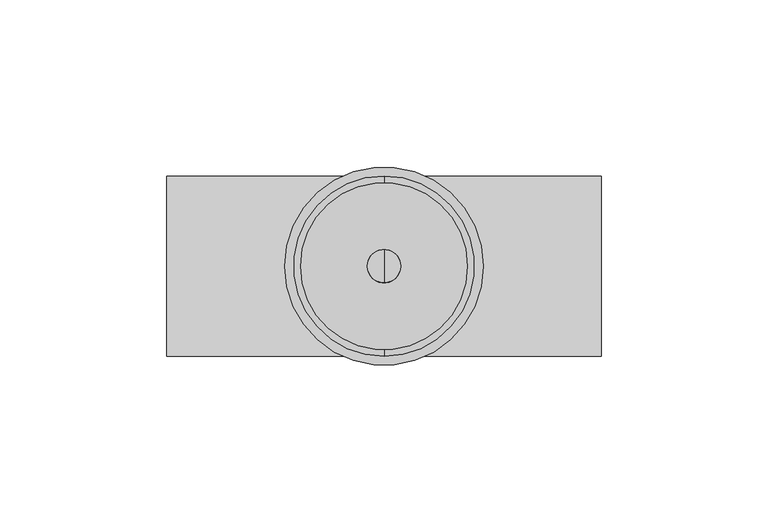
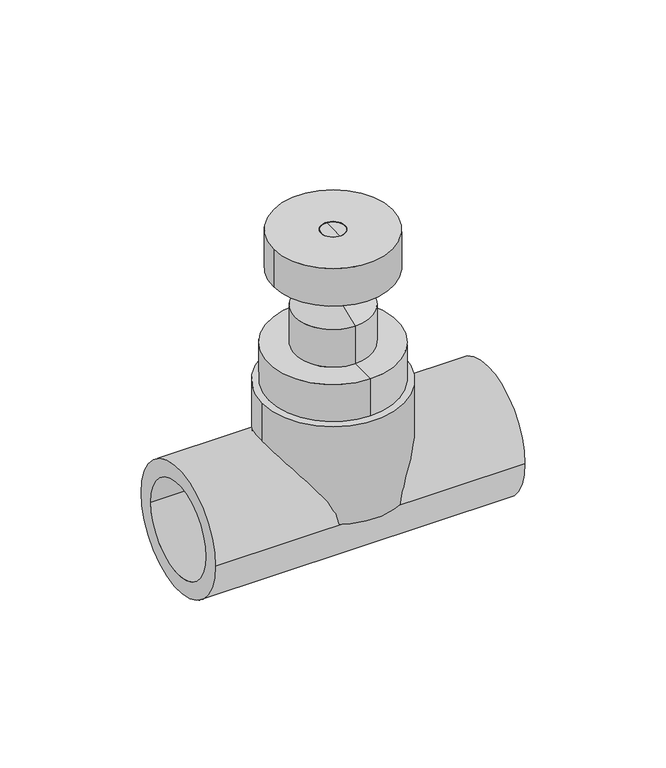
"""IFC4 building model written with IfcOpenShell, lengths in millimetres: valve geometry, EGB_VASEN_ PPR_Valvula de corte con volante WXR830 : Válvula de corte con volante WXR830."""

from ifc_helpers import new_model, si_unit, point, frame, origin, origin_with_axes, origin_2d, place, context, project, spatial, polyline, circle_curve, trimmed, segment, composite_curve, outline, extrude, source, transform, mapped, element, save
from ifc_brep_helpers import plane_surface, cylinder_surface, revolved_surface, advanced_brep


def valve_8d334621(model_context):
    return source(origin(), model_context, "Body", "SolidModel", [
        extrude(outline(composite_curve([segment(trimmed(circle_curve(origin_2d(), 29.7), [point((-29.7, 0.0))], [point((29.7, 0.0))], False, "CARTESIAN"), True, "CONTINUOUS"), segment(trimmed(circle_curve(origin_2d(), 29.7), [point((29.7, 0.0))], [point((-29.7, 0.0))], False, "CARTESIAN"), True, "CONTINUOUS")], self_intersect=False)), origin_with_axes(), (0.0, 0.0, 1.0), 43.7),
        extrude(outline(composite_curve([segment(trimmed(circle_curve(origin_2d(), 27.0), [point((-27.0, 0.0))], [point((27.0, 0.0))], False, "CARTESIAN"), True, "CONTINUOUS"), segment(trimmed(circle_curve(origin_2d(), 27.0), [point((27.0, 0.0))], [point((-27.0, 0.0))], False, "CARTESIAN"), True, "CONTINUOUS")], self_intersect=False), holes=[composite_curve([segment(trimmed(circle_curve(origin_2d(), 20.0), [point((-20.0, 0.0))], [point((20.0, 0.0))], True, "CARTESIAN"), True, "CONTINUOUS"), segment(trimmed(circle_curve(origin_2d(), 20.0), [point((20.0, 0.0))], [point((-20.0, 0.0))], True, "CARTESIAN"), True, "CONTINUOUS")], self_intersect=False)]), frame((-65.0, 0.0, 0.0), z_axis=(1.0, 0.0, 0.0), x_axis=(0.0, 1.0, 0.0)), (0.0, 0.0, 1.0), 130.0),
        extrude(outline(composite_curve([segment(trimmed(circle_curve(origin_2d(), 25.0), [point((25.0, 0.0))], [point((-25.0, 0.0))], False, "CARTESIAN"), True, "CONTINUOUS"), segment(trimmed(circle_curve(origin_2d(), 25.0), [point((-25.0, 0.0))], [point((25.0, 0.0))], False, "CARTESIAN"), True, "CONTINUOUS")], self_intersect=False), holes=[composite_curve([segment(trimmed(circle_curve(origin_2d(), 5.0), [point((5.0, 0.0))], [point((-5.0, 0.0))], True, "CARTESIAN"), True, "CONTINUOUS"), segment(trimmed(circle_curve(origin_2d(), 5.0), [point((-5.0, 0.0))], [point((5.0, 0.0))], True, "CARTESIAN"), True, "CONTINUOUS")], self_intersect=False)]), frame((0.0, 0.0, 93.8), z_axis=(0.0, 0.0, 1.0), x_axis=(1.0, 0.0, 0.0)), (0.0, 0.0, 1.0), 16.7),
        advanced_brep(
        [(0.0, -16.0, 60.4), (0.0, 16.0, 60.4), (0.0, 27.0, 60.4), (0.0, -27.0, 60.4), (0.0, -16.0, 77.1), (0.0, 16.0, 77.1), (0.0, -5.0, 81.8272839), (0.0, 5.0, 81.8272839), (0.0, -5.0, 110.5), (0.0, 5.0, 110.5), (0.0, 0.0, 110.5), (0.0, -27.0, 43.7), (0.0, 27.0, 43.7), (0.0, 0.0, 43.7)],
        [
            (0, 1, circle_curve(frame((0.0, 0.0, 60.4), z_axis=(0.0, 0.0, -1.0), x_axis=(0.0, 1.0, 0.0)), 16.0)),
            (1, 2),
            (2, 3, circle_curve(frame((0.0, 0.0, 60.4), z_axis=(0.0, 0.0, 1.0), x_axis=(0.0, 1.0, 0.0)), 27.0)),
            (3, 0),
            (1, 0, circle_curve(frame((0.0, 0.0, 60.4), z_axis=(0.0, 0.0, -1.0), x_axis=(0.0, 1.0, 0.0)), 16.0)),
            (3, 2, circle_curve(frame((0.0, 0.0, 60.4), z_axis=(0.0, 0.0, 1.0), x_axis=(0.0, 1.0, 0.0)), 27.0)),
            (4, 5, circle_curve(frame((0.0, 0.0, 77.1), z_axis=(0.0, 0.0, -1.0), x_axis=(0.0, 1.0, 0.0)), 16.0)),
            (5, 1),
            (0, 4),
            (5, 4, circle_curve(frame((0.0, 0.0, 77.1), z_axis=(0.0, 0.0, -1.0), x_axis=(0.0, 1.0, 0.0)), 16.0)),
            (6, 7, circle_curve(frame((0.0, 0.0, 81.8272839), z_axis=(0.0, 0.0, -1.0), x_axis=(0.0, 1.0, 0.0)), 5.0)),
            (7, 5),
            (4, 6),
            (7, 6, circle_curve(frame((0.0, 0.0, 81.8272839), z_axis=(0.0, 0.0, -1.0), x_axis=(0.0, 1.0, 0.0)), 5.0)),
            (8, 9, circle_curve(frame((0.0, 0.0, 110.5), z_axis=(0.0, 0.0, -1.0), x_axis=(0.0, 1.0, 0.0)), 5.0)),
            (9, 7),
            (6, 8),
            (9, 8, circle_curve(frame((0.0, 0.0, 110.5), z_axis=(0.0, 0.0, -1.0), x_axis=(0.0, 1.0, 0.0)), 5.0)),
            (10, 9),
            (8, 10),
            (11, 12, circle_curve(frame((0.0, 0.0, 43.7), z_axis=(0.0, 0.0, -1.0), x_axis=(0.0, 1.0, 0.0)), 27.0)),
            (12, 13),
            (13, 11),
            (12, 11, circle_curve(frame((0.0, 0.0, 43.7), z_axis=(0.0, 0.0, -1.0), x_axis=(0.0, 1.0, 0.0)), 27.0)),
            (2, 12),
            (11, 3),
        ],
        [
            plane_surface(frame((0.0, 0.0, 60.4), z_axis=(0.0, 0.0, 1.0), x_axis=(0.0, 1.0, 0.0))),
            cylinder_surface(frame((0.0, 0.0, 125.5), z_axis=(0.0, 0.0, 1.0), x_axis=(0.0, 1.0, 0.0)), 16.0),
            revolved_surface(polyline([(0.0, 16.0, 77.1), (0.0, 5.0, 81.8272839)]), (0.0, 0.0, 125.5), (0.0, 0.0, 1.0)),
            cylinder_surface(frame((0.0, 0.0, 125.5), z_axis=(0.0, 0.0, 1.0), x_axis=(0.0, 1.0, 0.0)), 5.0),
            plane_surface(frame((0.0, 0.0, 110.5), z_axis=(0.0, 0.0, 1.0), x_axis=(0.0, 1.0, 0.0))),
            plane_surface(frame((0.0, 0.0, 43.7), z_axis=(0.0, 0.0, -1.0), x_axis=(0.0, 1.0, 0.0))),
            cylinder_surface(frame((0.0, 0.0, 125.5), z_axis=(0.0, 0.0, 1.0), x_axis=(0.0, 1.0, 0.0)), 27.0),
        ],
        [
            (0, [[1, 2, 3, 4]]),
            (0, [[5, -4, 6, -2]]),
            (1, [[7, 8, -1, 9]]),
            (1, [[10, -9, -5, -8]]),
            (2, [[11, 12, -7, 13]]),
            (2, [[14, -13, -10, -12]]),
            (3, [[15, 16, -11, 17]]),
            (3, [[18, -17, -14, -16]]),
            (4, [[19, -15, 20]]),
            (4, [[-20, -18, -19]]),
            (5, [[21, 22, 23]]),
            (5, [[24, -23, -22]]),
            (6, [[-3, 25, -21, 26]]),
            (6, [[-6, -26, -24, -25]]),
        ],
    ),
    ])


if __name__ == "__main__":
    model = new_model("IFC4")
    model_context = context("Model", 3, world=origin())
    ifc_project = project(units=[si_unit("LENGTHUNIT", "METRE", prefix="MILLI")], contexts=[model_context])
    site = spatial("IfcSite", under=ifc_project)
    building = spatial("IfcBuilding", under=site)
    placement = place(None, origin())
    valve_shape = valve_8d334621(model_context)
    element("IfcValve", 1, ObjectType="EGB_VASEN_ PPR_Valvula de corte con volante WXR830 : Válvula de corte con volante WXR830", at=placement, inside=building, context=model_context, shape_type="MappedRepresentation", body=[
        mapped(valve_shape, transform((0.0, 0.0, 0.0), x_axis=(1.0, 0.0, 0.0), y_axis=(0.0, 1.0, 0.0), z_axis=(0.0, 0.0, 1.0))),
    ])
    save(model, "model.ifc")
